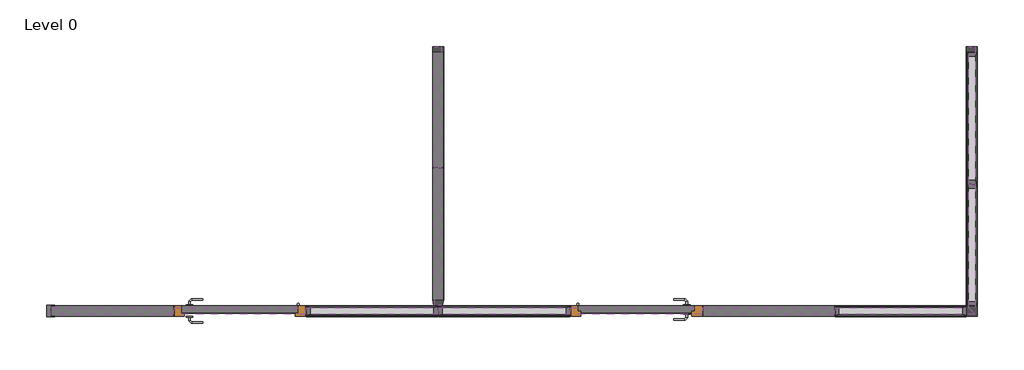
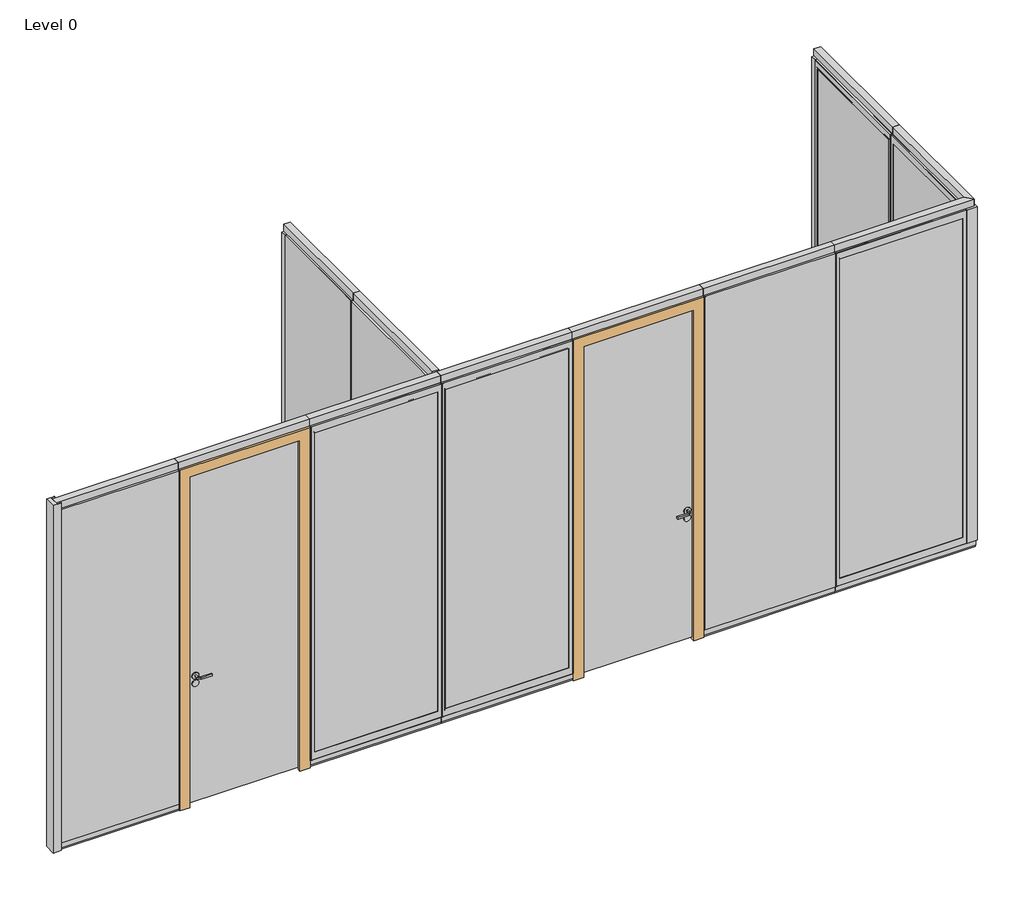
# One storey: 32 members, 10 plates, 2 doors, 2 proxies.
"""IFC4 building model written with IfcOpenShell, lengths in millimetres."""

from ifc_helpers import new_model, si_unit, origin, place, context, project, spatial, transform, mapped, element, save
from components import bat_m_6efa0f8f, bat_m_cff2483f, door_ac8f3b1c, door_ac919ee7, l_corner_mullion_d32c7b96, rectangular_mullion_3b15cca5, rectangular_mullion_cdd06e90, rectangular_mullion_bc42f1b9, rectangular_mullion_c56fabd8, rectangular_mullion_65046eaf, rectangular_mullion_62f85b1f, rectangular_mullion_abafef46, rectangular_mullion_7c2227dd, rectangular_mullion_d973b6f6, rectangular_mullion_fba84aa1, rectangular_mullion_51a0963e, rectangular_mullion_8a81fff2, rectangular_mullion_c82f2622, rectangular_mullion_junction_me_85_me_d2a1f88f, rectangular_mullion_junction_me_85_me_f9d67303, rectangular_mullion_junction_t1_85_t1_e380cd77, plate_85_abm_140e1177, glazing_panel_th_d8492dd5, glazing_panel_th_78c15b61, glazing_panel_th_1311bee8, solid_panel_85_m_0b1a7936, solid_panel_85_m_2494bd28, solid_panel_85_m_493c74b2, solid_panel_85_m_cd444500

model = new_model("IFC4")

# Units and contexts
model_context = context("Model", 3, world=origin())
ifc_project = project(units=[si_unit("LENGTHUNIT", "METRE", prefix="MILLI")], contexts=[model_context])

# Site, building, storey
site = spatial("IfcSite", under=ifc_project)
building = spatial("IfcBuilding", under=site)
storey = spatial("IfcBuildingStorey", under=building, Name="Level 0", Elevation=0.0)

# Proxies
placement = place(None, origin())
bat_m_shape = bat_m_6efa0f8f(model_context)
element("IfcBuildingElementProxy", 1, Name="BAT-M : Défaut", ObjectType="BAT-M : Défaut", at=placement, inside=storey, context=model_context, shape_type="MappedRepresentation", body=[
    mapped(bat_m_shape, transform((4579.9546718, -1542.4831289, 0.0), x_axis=(-1.0, 0.0, 0.0), y_axis=(0.0, -1.0, 0.0), z_axis=(0.0, 0.0, 1.0))),
])
bat_m_2_shape = bat_m_cff2483f(model_context)
element("IfcBuildingElementProxy", 2, Name="BAT-M : 85-GOALFVITRE", ObjectType="BAT-M : 85-GOALFVITRE", at=placement, inside=storey, context=model_context, shape_type="MappedRepresentation", body=[
    mapped(bat_m_2_shape, transform((2463.9546718, -1542.4831289, 0.0), x_axis=(1.0, 0.0, 0.0), y_axis=(0.0, 1.0, 0.0), z_axis=(0.0, 0.0, 1.0))),
])

# Doors
door_shape = door_ac8f3b1c(model_context)
element("IfcDoor", 3, ObjectType="DOOR_PANEL-N-PTH : 85-PTHC55", at=placement, inside=storey, context=model_context, shape_type="MappedRepresentation", body=[
    mapped(door_shape, transform((5021.9546718, -1583.9831289, 0.0), x_axis=(-1.0, 0.0, 0.0), y_axis=(0.0, -1.0, 0.0), z_axis=(0.0, 0.0, 1.0))),
])
door_2_shape = door_ac919ee7(model_context)
element("IfcDoor", 4, ObjectType="DOOR_PANEL-N-PTH : 85-PTHC55", at=placement, inside=storey, context=model_context, shape_type="MappedRepresentation", body=[
    mapped(door_2_shape, transform((2021.9546718, -1583.9831289, 0.0), x_axis=(1.0, 0.0, 0.0), y_axis=(0.0, 1.0, 0.0), z_axis=(0.0, 0.0, 1.0))),
])

# Members
l_corner_mullion_shape = l_corner_mullion_d32c7b96(model_context)
element("IfcMember", 5, ObjectType="L Corner Mullion : JUNCTION-T2 85-T2CJ", at=placement, inside=storey, context=model_context, shape_type="MappedRepresentation", body=[
    mapped(l_corner_mullion_shape, transform((7560.4546718, -1583.9831289, 58.0), x_axis=(0.0, -1.0, 0.0), y_axis=(-1.0, 0.0, 0.0), z_axis=(0.0, 0.0, -1.0))),
])
rectangular_mullion_shape = rectangular_mullion_3b15cca5(model_context)
element("IfcMember", 6, ObjectType="Rectangular Mullion : FLOOR_TRACK 85-KLS00-P80-RE58XC", at=placement, inside=storey, context=model_context, shape_type="MappedRepresentation", body=[
    mapped(rectangular_mullion_shape, transform((7560.4546718, 416.0168711, 0.0), x_axis=(0.0, 0.0, -1.0), y_axis=(-1.0, 0.0, 0.0), z_axis=(0.0, 1.0, 0.0))),
])
element("IfcMember", 7, ObjectType="Rectangular Mullion : FLOOR_TRACK 85-KLS00-P80-RE58XC", at=placement, inside=storey, context=model_context, shape_type="MappedRepresentation", body=[
    mapped(rectangular_mullion_shape, transform((3521.9546718, -1542.4831289, 0.0), x_axis=(0.0, 0.0, -1.0), y_axis=(1.0, 0.0, 0.0), z_axis=(0.0, -1.0, 0.0))),
])
rectangular_mullion_2_shape = rectangular_mullion_cdd06e90(model_context)
element("IfcMember", 8, ObjectType="Rectangular Mullion : CEILING_TRACK 85-KLP00-P80-SD57XC", at=placement, inside=storey, context=model_context, shape_type="MappedRepresentation", body=[
    mapped(rectangular_mullion_2_shape, transform((3521.9546718, -500.9831289, 2800.0), x_axis=(0.0, 0.0, 1.0), y_axis=(1.0, 0.0, 0.0), z_axis=(0.0, 1.0, 0.0))),
])
element("IfcMember", 9, ObjectType="Rectangular Mullion : CEILING_TRACK 85-KLP00-P80-SD57XC", at=placement, inside=storey, context=model_context, shape_type="MappedRepresentation", body=[
    mapped(rectangular_mullion_2_shape, transform((7560.4546718, -625.4831289, 2800.0), x_axis=(0.0, 0.0, 1.0), y_axis=(-1.0, 0.0, 0.0), z_axis=(0.0, -1.0, 0.0))),
])
rectangular_mullion_3_shape = rectangular_mullion_bc42f1b9(model_context)
element("IfcMember", 10, ObjectType="Rectangular Mullion : CEILING_TRACK 85-KLP00-P80-SD57XC", at=placement, inside=storey, context=model_context, shape_type="MappedRepresentation", body=[
    mapped(rectangular_mullion_3_shape, transform((5521.9546718, -1583.9831289, 2800.0), x_axis=(0.0, 0.0, 1.0), y_axis=(0.0, 1.0, 0.0), z_axis=(-1.0, 0.0, 0.0))),
])
element("IfcMember", 11, ObjectType="Rectangular Mullion : CEILING_TRACK 85-KLP00-P80-SD57XC", at=placement, inside=storey, context=model_context, shape_type="MappedRepresentation", body=[
    mapped(rectangular_mullion_3_shape, transform((4521.9546718, -1583.9831289, 2800.0), x_axis=(0.0, 0.0, 1.0), y_axis=(0.0, 1.0, 0.0), z_axis=(-1.0, 0.0, 0.0))),
])
element("IfcMember", 12, ObjectType="Rectangular Mullion : CEILING_TRACK 85-KLP00-P80-SD57XC", at=placement, inside=storey, context=model_context, shape_type="MappedRepresentation", body=[
    mapped(rectangular_mullion_3_shape, transform((3521.9546718, -1583.9831289, 2800.0), x_axis=(0.0, 0.0, 1.0), y_axis=(0.0, 1.0, 0.0), z_axis=(-1.0, 0.0, 0.0))),
])
element("IfcMember", 13, ObjectType="Rectangular Mullion : CEILING_TRACK 85-KLP00-P80-SD57XC", at=placement, inside=storey, context=model_context, shape_type="MappedRepresentation", body=[
    mapped(rectangular_mullion_3_shape, transform((2521.9546718, -1583.9831289, 2800.0), x_axis=(0.0, 0.0, 1.0), y_axis=(0.0, 1.0, 0.0), z_axis=(-1.0, 0.0, 0.0))),
])
element("IfcMember", 14, ObjectType="Rectangular Mullion : CEILING_TRACK 85-KLP00-P80-SD57XC", at=placement, inside=storey, context=model_context, shape_type="MappedRepresentation", body=[
    mapped(rectangular_mullion_3_shape, transform((1521.9546718, -1583.9831289, 2800.0), x_axis=(0.0, 0.0, 1.0), y_axis=(0.0, 1.0, 0.0), z_axis=(-1.0, 0.0, 0.0))),
])
rectangular_mullion_4_shape = rectangular_mullion_c56fabd8(model_context)
element("IfcMember", 15, ObjectType="Rectangular Mullion : FLOOR_TRACK 85-KLS00-P80-RE58XC", at=placement, inside=storey, context=model_context, shape_type="MappedRepresentation", body=[
    mapped(rectangular_mullion_4_shape, transform((6521.9546718, -1583.9831289, 0.0), x_axis=(0.0, 0.0, -1.0), y_axis=(0.0, 1.0, 0.0), z_axis=(1.0, 0.0, 0.0))),
])
element("IfcMember", 16, ObjectType="Rectangular Mullion : FLOOR_TRACK 85-KLS00-P80-RE58XC", at=placement, inside=storey, context=model_context, shape_type="MappedRepresentation", body=[
    mapped(rectangular_mullion_4_shape, transform((3521.9546718, -1583.9831289, 0.0), x_axis=(0.0, 0.0, -1.0), y_axis=(0.0, 1.0, 0.0), z_axis=(1.0, 0.0, 0.0))),
])
element("IfcMember", 17, ObjectType="Rectangular Mullion : FLOOR_TRACK 85-KLS00-P80-RE58XC", at=placement, inside=storey, context=model_context, shape_type="MappedRepresentation", body=[
    mapped(rectangular_mullion_4_shape, transform((4524.9546718, -1583.9831289, 0.0), x_axis=(0.0, 0.0, -1.0), y_axis=(0.0, 1.0, 0.0), z_axis=(1.0, 0.0, 0.0))),
])
rectangular_mullion_5_shape = rectangular_mullion_65046eaf(model_context)
element("IfcMember", 18, ObjectType="Rectangular Mullion : FLOOR_TRACK 85-KLS00-P80-RE58XC", at=placement, inside=storey, context=model_context, shape_type="MappedRepresentation", body=[
    mapped(rectangular_mullion_5_shape, transform((3521.9546718, -500.9831289, 0.0), x_axis=(0.0, 0.0, -1.0), y_axis=(1.0, 0.0, 0.0), z_axis=(0.0, -1.0, 0.0))),
])
rectangular_mullion_6_shape = rectangular_mullion_62f85b1f(model_context)
element("IfcMember", 19, ObjectType="Rectangular Mullion : CEILING_TRACK 85-KLP00-P80-SD57XC", at=placement, inside=storey, context=model_context, shape_type="MappedRepresentation", body=[
    mapped(rectangular_mullion_6_shape, transform((3521.9546718, 416.0168711, 2800.0), x_axis=(0.0, 0.0, 1.0), y_axis=(1.0, 0.0, 0.0), z_axis=(0.0, 1.0, 0.0))),
])
rectangular_mullion_7_shape = rectangular_mullion_abafef46(model_context)
element("IfcMember", 20, ObjectType="Rectangular Mullion : FLOOR_TRACK 85-KLS00-P80-RE58XC", at=placement, inside=storey, context=model_context, shape_type="MappedRepresentation", body=[
    mapped(rectangular_mullion_7_shape, transform((7560.4546718, -625.4831289, 0.0), x_axis=(0.0, 0.0, -1.0), y_axis=(-1.0, 0.0, 0.0), z_axis=(0.0, 1.0, 0.0))),
])
rectangular_mullion_8_shape = rectangular_mullion_7c2227dd(model_context)
element("IfcMember", 21, ObjectType="Rectangular Mullion : FLOOR_TRACK 85-KLS00-P80-RE58XC", at=placement, inside=storey, context=model_context, shape_type="MappedRepresentation", body=[
    mapped(rectangular_mullion_8_shape, transform((7560.4546718, -1583.9831289, 0.0), x_axis=(0.0, 0.0, -1.0), y_axis=(0.0, 1.0, 0.0), z_axis=(1.0, 0.0, 0.0))),
])
rectangular_mullion_9_shape = rectangular_mullion_d973b6f6(model_context)
element("IfcMember", 22, ObjectType="Rectangular Mullion : CEILING_TRACK 85-KLP00-P80-SD57XC", at=placement, inside=storey, context=model_context, shape_type="MappedRepresentation", body=[
    mapped(rectangular_mullion_9_shape, transform((7560.4546718, -1583.9831289, 2800.0), x_axis=(0.0, 0.0, 1.0), y_axis=(-1.0, 0.0, 0.0), z_axis=(0.0, -1.0, 0.0))),
])
rectangular_mullion_10_shape = rectangular_mullion_fba84aa1(model_context)
element("IfcMember", 23, ObjectType="Rectangular Mullion : CEILING_TRACK 85-KLP00-P80-SD57XC", at=placement, inside=storey, context=model_context, shape_type="MappedRepresentation", body=[
    mapped(rectangular_mullion_10_shape, transform((6521.9546718, -1583.9831289, 2800.0), x_axis=(0.0, 0.0, 1.0), y_axis=(0.0, 1.0, 0.0), z_axis=(-1.0, 0.0, 0.0))),
])
rectangular_mullion_11_shape = rectangular_mullion_51a0963e(model_context)
element("IfcMember", 24, ObjectType="Rectangular Mullion : FLOOR_TRACK 85-KLS00-P80-RE58XC", at=placement, inside=storey, context=model_context, shape_type="MappedRepresentation", body=[
    mapped(rectangular_mullion_11_shape, transform((1524.9546718, -1583.9831289, 0.0), x_axis=(0.0, 0.0, -1.0), y_axis=(0.0, 1.0, 0.0), z_axis=(1.0, 0.0, 0.0))),
])
rectangular_mullion_12_shape = rectangular_mullion_8a81fff2(model_context)
element("IfcMember", 25, ObjectType="Rectangular Mullion : CEILING_TRACK 85-KLP00-P80-SD57XC", at=placement, inside=storey, context=model_context, shape_type="MappedRepresentation", body=[
    mapped(rectangular_mullion_12_shape, transform((592.4546718, -1583.9831289, 2800.0), x_axis=(0.0, 0.0, 1.0), y_axis=(0.0, 1.0, 0.0), z_axis=(-1.0, 0.0, 0.0))),
])
rectangular_mullion_13_shape = rectangular_mullion_c82f2622(model_context)
element("IfcMember", 26, ObjectType="Rectangular Mullion : JUNCTION-T3S-LEFT 85-T3S", at=placement, inside=storey, context=model_context, shape_type="MappedRepresentation", body=[
    mapped(rectangular_mullion_13_shape, transform((3521.9546718, -1542.4831289, 2743.0), x_axis=(0.0, -1.0, 0.0), y_axis=(1.0, 0.0, 0.0), z_axis=(0.0, 0.0, 1.0))),
])
rectangular_mullion_junction_me_85_me_shape = rectangular_mullion_junction_me_85_me_d2a1f88f(model_context)
element("IfcMember", 27, ObjectType="Rectangular Mullion : JUNCTION-ME 85-ME", at=placement, inside=storey, context=model_context, shape_type="MappedRepresentation", body=[
    mapped(rectangular_mullion_junction_me_85_me_shape, transform((7560.4546718, 416.0168711, 2743.0), x_axis=(0.0, 1.0, 0.0), y_axis=(-1.0, 0.0, 0.0), z_axis=(0.0, 0.0, 1.0))),
])
rectangular_mullion_junction_me_85_me_2_shape = rectangular_mullion_junction_me_85_me_f9d67303(model_context)
element("IfcMember", 28, ObjectType="Rectangular Mullion : JUNCTION-ME 85-ME", at=placement, inside=storey, context=model_context, shape_type="MappedRepresentation", body=[
    mapped(rectangular_mullion_junction_me_85_me_2_shape, transform((3521.9546718, 416.0168711, 58.0), x_axis=(0.0, 1.0, 0.0), y_axis=(1.0, 0.0, 0.0), z_axis=(0.0, 0.0, -1.0))),
])
rectangular_mullion_junction_t1_85_t1_shape = rectangular_mullion_junction_t1_85_t1_e380cd77(model_context)
element("IfcMember", 29, ObjectType="Rectangular Mullion : JUNCTION-T1 85-T1", at=placement, inside=storey, context=model_context, shape_type="MappedRepresentation", body=[
    mapped(rectangular_mullion_junction_t1_85_t1_shape, transform((2521.9546718, -1583.9831289, 58.0), x_axis=(-1.0, 0.0, 0.0), y_axis=(0.0, 1.0, 0.0), z_axis=(0.0, 0.0, -1.0))),
])
element("IfcMember", 30, ObjectType="Rectangular Mullion : JUNCTION-T1 85-T1", at=placement, inside=storey, context=model_context, shape_type="MappedRepresentation", body=[
    mapped(rectangular_mullion_junction_t1_85_t1_shape, transform((1521.9546718, -1583.9831289, 58.0), x_axis=(-1.0, 0.0, 0.0), y_axis=(0.0, 1.0, 0.0), z_axis=(0.0, 0.0, -1.0))),
])
element("IfcMember", 31, ObjectType="Rectangular Mullion : JUNCTION-T1 85-T1", at=placement, inside=storey, context=model_context, shape_type="MappedRepresentation", body=[
    mapped(rectangular_mullion_junction_t1_85_t1_shape, transform((3521.9546718, -500.9831289, 58.0), x_axis=(0.0, 1.0, 0.0), y_axis=(1.0, 0.0, 0.0), z_axis=(0.0, 0.0, -1.0))),
])
element("IfcMember", 32, ObjectType="Rectangular Mullion : JUNCTION-T1 85-T1", at=placement, inside=storey, context=model_context, shape_type="MappedRepresentation", body=[
    mapped(rectangular_mullion_junction_t1_85_t1_shape, transform((7560.4546718, -625.4831289, 58.0), x_axis=(0.0, -1.0, 0.0), y_axis=(-1.0, 0.0, 0.0), z_axis=(0.0, 0.0, -1.0))),
])
element("IfcMember", 33, ObjectType="Rectangular Mullion : JUNCTION-T1 85-T1", at=placement, inside=storey, context=model_context, shape_type="MappedRepresentation", body=[
    mapped(rectangular_mullion_junction_t1_85_t1_shape, transform((6521.9546718, -1583.9831289, 58.0), x_axis=(-1.0, 0.0, 0.0), y_axis=(0.0, 1.0, 0.0), z_axis=(0.0, 0.0, -1.0))),
])
element("IfcMember", 34, ObjectType="Rectangular Mullion : JUNCTION-T1 85-T1", at=placement, inside=storey, context=model_context, shape_type="MappedRepresentation", body=[
    mapped(rectangular_mullion_junction_t1_85_t1_shape, transform((5521.9546718, -1583.9831289, 58.0), x_axis=(-1.0, 0.0, 0.0), y_axis=(0.0, 1.0, 0.0), z_axis=(0.0, 0.0, -1.0))),
])
element("IfcMember", 35, ObjectType="Rectangular Mullion : JUNCTION-T1 85-T1", at=placement, inside=storey, context=model_context, shape_type="MappedRepresentation", body=[
    mapped(rectangular_mullion_junction_t1_85_t1_shape, transform((4521.9546718, -1583.9831289, 58.0), x_axis=(-1.0, 0.0, 0.0), y_axis=(0.0, 1.0, 0.0), z_axis=(0.0, 0.0, -1.0))),
])
element("IfcMember", 36, ObjectType="Rectangular Mullion : JUNCTION-T1 85-T1", at=placement, inside=storey, context=model_context, shape_type="MappedRepresentation", body=[
    mapped(rectangular_mullion_junction_t1_85_t1_shape, transform((3521.9546718, -1583.9831289, 58.0), x_axis=(-1.0, 0.0, 0.0), y_axis=(0.0, 1.0, 0.0), z_axis=(0.0, 0.0, -1.0))),
])

# Plates
plate_85_abm_shape = plate_85_abm_140e1177(model_context)
element("IfcPlate", 37, ObjectType="END_FILLER-ABM_U-MUR-M : 85-ABM", at=placement, inside=storey, context=model_context, shape_type="MappedRepresentation", body=[
    mapped(plate_85_abm_shape, transform((576.4546718, -1583.9831289, 0.0), x_axis=(1.0, 0.0, 0.0), y_axis=(0.0, 1.0, 0.0), z_axis=(0.0, 0.0, 1.0))),
])
glazing_panel_th_shape = glazing_panel_th_d8492dd5(model_context)
element("IfcPlate", 38, ObjectType="GLAZING_PANEL-TH : 85-MVDVAL", at=placement, inside=storey, context=model_context, shape_type="MappedRepresentation", body=[
    mapped(glazing_panel_th_shape, transform((7560.4546718, -125.4831289, 58.0), x_axis=(0.0, -1.0, 0.0), y_axis=(1.0, 0.0, 0.0), z_axis=(0.0, 0.0, 1.0))),
])
element("IfcPlate", 39, ObjectType="GLAZING_PANEL-TH : 85-MVDVAL", at=placement, inside=storey, context=model_context, shape_type="MappedRepresentation", body=[
    mapped(glazing_panel_th_shape, transform((7021.9546718, -1583.9831289, 58.0), x_axis=(-1.0, 0.0, 0.0), y_axis=(0.0, -1.0, 0.0), z_axis=(0.0, 0.0, 1.0))),
])
glazing_panel_th_2_shape = glazing_panel_th_78c15b61(model_context)
element("IfcPlate", 40, ObjectType="GLAZING_PANEL-TH : 85-MVDVAL", at=placement, inside=storey, context=model_context, shape_type="MappedRepresentation", body=[
    mapped(glazing_panel_th_2_shape, transform((4021.9546718, -1583.9831289, 58.0), x_axis=(-1.0, 0.0, 0.0), y_axis=(0.0, -1.0, 0.0), z_axis=(0.0, 0.0, 1.0))),
])
element("IfcPlate", 41, ObjectType="GLAZING_PANEL-TH : 85-MVDVAL", at=placement, inside=storey, context=model_context, shape_type="MappedRepresentation", body=[
    mapped(glazing_panel_th_2_shape, transform((3021.9546718, -1583.9831289, 58.0), x_axis=(-1.0, 0.0, 0.0), y_axis=(0.0, -1.0, 0.0), z_axis=(0.0, 0.0, 1.0))),
])
glazing_panel_th_3_shape = glazing_panel_th_1311bee8(model_context)
element("IfcPlate", 42, ObjectType="GLAZING_PANEL-TH : 85-MVDVAL", at=placement, inside=storey, context=model_context, shape_type="MappedRepresentation", body=[
    mapped(glazing_panel_th_3_shape, transform((7560.4546718, -1085.4831289, 58.0), x_axis=(0.0, -1.0, 0.0), y_axis=(1.0, 0.0, 0.0), z_axis=(0.0, 0.0, 1.0))),
])
solid_panel_85_m_shape = solid_panel_85_m_0b1a7936(model_context)
element("IfcPlate", 43, ObjectType="SOLID_PANEL : 85-M", at=placement, inside=storey, context=model_context, shape_type="MappedRepresentation", body=[
    mapped(solid_panel_85_m_shape, transform((6021.9546718, -1583.9831289, 58.0), x_axis=(1.0, 0.0, 0.0), y_axis=(0.0, 1.0, 0.0), z_axis=(0.0, 0.0, 1.0))),
])
solid_panel_85_m_2_shape = solid_panel_85_m_2494bd28(model_context)
element("IfcPlate", 44, ObjectType="SOLID_PANEL : 85-M", at=placement, inside=storey, context=model_context, shape_type="MappedRepresentation", body=[
    mapped(solid_panel_85_m_2_shape, transform((1055.7046718, -1583.9831289, 58.0), x_axis=(1.0, 0.0, 0.0), y_axis=(0.0, 1.0, 0.0), z_axis=(0.0, 0.0, 1.0))),
])
solid_panel_85_m_3_shape = solid_panel_85_m_493c74b2(model_context)
element("IfcPlate", 45, ObjectType="SOLID_PANEL : 85-M", at=placement, inside=storey, context=model_context, shape_type="MappedRepresentation", body=[
    mapped(solid_panel_85_m_3_shape, transform((3521.9546718, -1000.9831289, 58.0), x_axis=(0.0, 1.0, 0.0), y_axis=(-1.0, 0.0, 0.0), z_axis=(0.0, 0.0, 1.0))),
])
solid_panel_85_m_4_shape = solid_panel_85_m_cd444500(model_context)
element("IfcPlate", 46, ObjectType="SOLID_PANEL : 85-M", at=placement, inside=storey, context=model_context, shape_type="MappedRepresentation", body=[
    mapped(solid_panel_85_m_4_shape, transform((3521.9546718, -63.2331289, 58.0), x_axis=(0.0, 1.0, 0.0), y_axis=(-1.0, 0.0, 0.0), z_axis=(0.0, 0.0, 1.0))),
])

save(model, "model.ifc")
